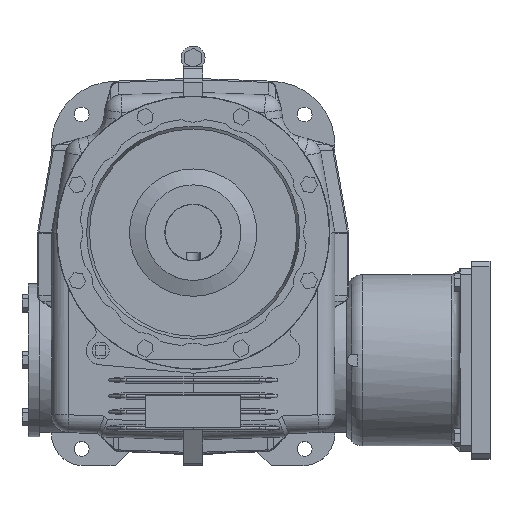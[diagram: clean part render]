
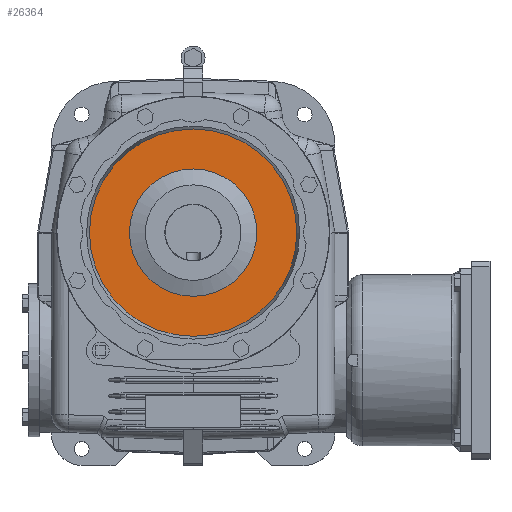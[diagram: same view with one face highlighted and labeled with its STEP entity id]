
A CAD part, top view. The second image highlights one B-rep face of the part: STEP entity #26364.
In plain terms, the highlighted planar face has unit normal (0, 0, 1) as drawn and (1, 0, 0) by its records, which use the part's own axes.
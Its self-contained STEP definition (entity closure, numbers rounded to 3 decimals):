
#12594=ORIENTED_EDGE('',*,*,#17125,.F.);
#12595=ORIENTED_EDGE('',*,*,#17124,.T.);
#17124=EDGE_CURVE('',#19697,#19697,#20543,.T.);
#17125=EDGE_CURVE('',#19698,#19698,#20544,.T.);
#19697=VERTEX_POINT('',#56868);
#19698=VERTEX_POINT('',#56871);
#20543=CIRCLE('',#29910,101.6);
#20544=CIRCLE('',#29912,165.351);
#22037=EDGE_LOOP('',(#12594));
#22038=EDGE_LOOP('',(#12595));
#23829=FACE_BOUND('',#22037,.T.);
#23830=FACE_BOUND('',#22038,.T.);
#24823=PLANE('',#29911);
#26364=ADVANCED_FACE('',(#23829,#23830),#24823,.F.);
#29910=AXIS2_PLACEMENT_3D('',#56867,#34933,#34934);
#29911=AXIS2_PLACEMENT_3D('',#56869,#34935,#34936);
#29912=AXIS2_PLACEMENT_3D('',#56870,#34937,#34938);
#34933=DIRECTION('',(-1.,0.,0.));
#34934=DIRECTION('',(0.,0.,1.));
#34935=DIRECTION('',(-1.,0.,0.));
#34936=DIRECTION('',(0.,0.,1.));
#34937=DIRECTION('',(-1.,0.,0.));
#34938=DIRECTION('',(0.,0.,1.));
#56867=CARTESIAN_POINT('',(14.961,0.,0.));
#56868=CARTESIAN_POINT('',(14.961,0.,101.6));
#56869=CARTESIAN_POINT('',(14.961,0.,101.6));
#56870=CARTESIAN_POINT('',(14.961,0.,0.));
#56871=CARTESIAN_POINT('',(14.961,0.,165.351));
